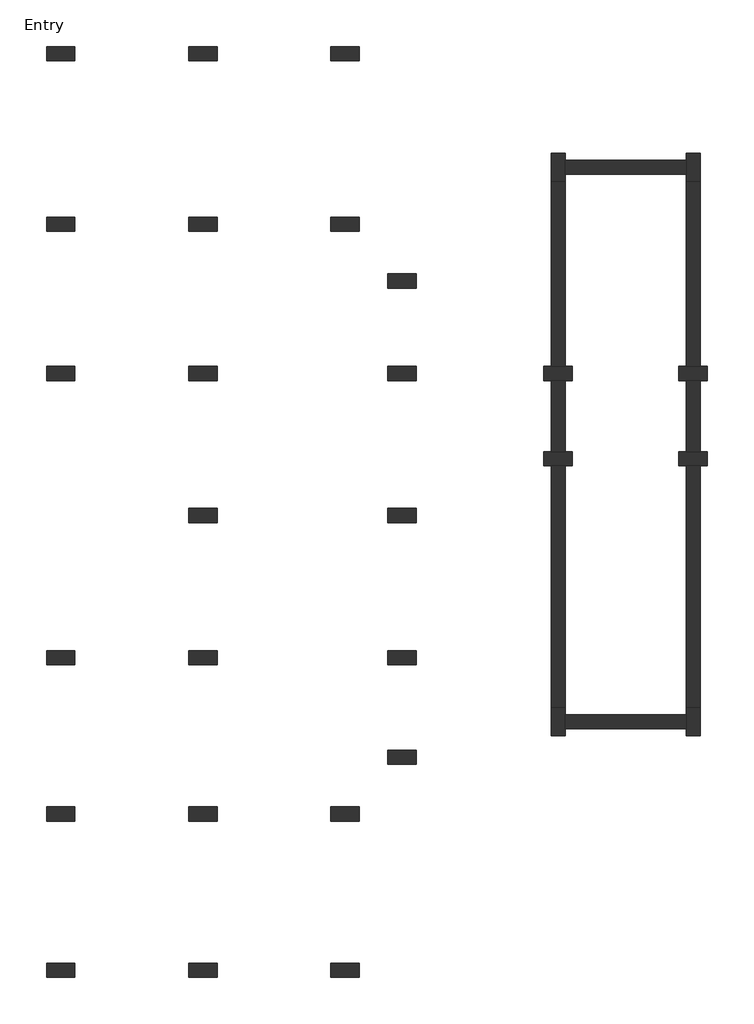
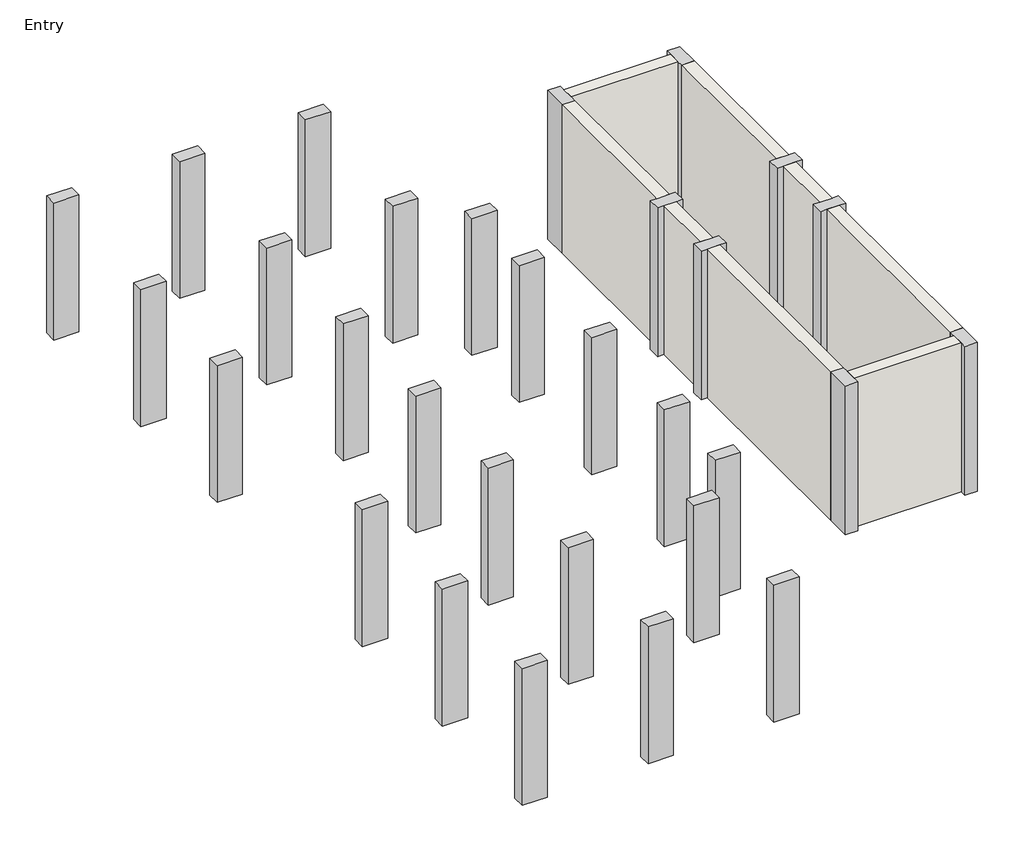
# One storey: 30 columns, 8 walls.
"""IFC4 building model written with IfcOpenShell, lengths in millimetres."""

from ifc_helpers import new_model, si_unit, origin, origin_with_axes, place, context, project, spatial, polyline, outline, extrude, faceted_brep, transform, mapped, element, save
from components import concrete_rectangular_column_12_x_24_9e7f9cbb

model = new_model("IFC4")

# Units and contexts
model_context = context("Model", 3, world=origin())
ifc_project = project(units=[si_unit("LENGTHUNIT", "METRE", prefix="MILLI")], contexts=[model_context])

# Site, building, storey
site = spatial("IfcSite", under=ifc_project)
building = spatial("IfcBuilding", under=site)
storey = spatial("IfcBuildingStorey", under=building, Name="Entry", Elevation=0.0)

# Columns
placement = place(None, origin())
element("IfcColumn", 1, ObjectType="Concrete-Rectangular-Column : 12 x 24", at=placement, inside=storey, context=model_context, shape_type="Brep", body=[
    faceted_brep([(-5009.5554735, 7788.9867088, 0.0), (-4857.1554735, 7788.9867088, 0.0), (-4552.3554735, 7788.9867088, 0.0), (-4399.9554735, 7788.9867088, 0.0), (-4399.9554735, 7484.1867088, 0.0), (-4552.3554735, 7484.1867088, 0.0), (-4857.1554735, 7484.1867088, 0.0), (-5009.5554735, 7484.1867088, 0.0), (-5009.5554735, 7788.9867088, 3810.0), (-4857.1554735, 7788.9867088, 3810.0), (-4552.3554735, 7788.9867088, 3810.0), (-4399.9554735, 7788.9867088, 3810.0), (-4399.9554735, 7484.1867088, 3810.0), (-4552.3554735, 7484.1867088, 3810.0), (-4857.1554735, 7484.1867088, 3810.0), (-5009.5554735, 7484.1867088, 3810.0)], [[[0, 1, 2, 3, 4, 5, 6, 7]], [[8, 9, 10, 11, 3, 2, 1, 0]], [[11, 12, 4, 3]], [[12, 13, 14, 15, 7, 6, 5, 4]], [[15, 8, 0, 7]], [[8, 15, 14, 13, 12, 11, 10, 9]]]),
])
element("IfcColumn", 2, ObjectType="Concrete-Rectangular-Column : 12 x 24", at=placement, inside=storey, context=model_context, shape_type="Brep", body=[
    faceted_brep([(-2113.9554735, 7788.9867088, 0.0), (-1961.5554735, 7788.9867088, 0.0), (-1656.7554735, 7788.9867088, 0.0), (-1504.3554735, 7788.9867088, 0.0), (-1504.3554735, 7484.1867088, 0.0), (-1656.7554735, 7484.1867088, 0.0), (-1961.5554735, 7484.1867088, 0.0), (-2113.9554735, 7484.1867088, 0.0), (-2113.9554735, 7788.9867088, 3810.0), (-1961.5554735, 7788.9867088, 3810.0), (-1656.7554735, 7788.9867088, 3810.0), (-1504.3554735, 7788.9867088, 3810.0), (-1504.3554735, 7484.1867088, 3810.0), (-1656.7554735, 7484.1867088, 3810.0), (-1961.5554735, 7484.1867088, 3810.0), (-2113.9554735, 7484.1867088, 3810.0)], [[[0, 1, 2, 3, 4, 5, 6, 7]], [[8, 9, 10, 11, 3, 2, 1, 0]], [[11, 12, 4, 3]], [[12, 13, 14, 15, 7, 6, 5, 4]], [[15, 8, 0, 7]], [[8, 15, 14, 13, 12, 11, 10, 9]]]),
])
element("IfcColumn", 3, ObjectType="Concrete-Rectangular-Column : 12 x 24", at=placement, inside=storey, context=model_context, shape_type="Brep", body=[
    faceted_brep([(-5009.5554735, 5960.1867088, 0.0), (-4857.1554735, 5960.1867088, 0.0), (-4552.3554735, 5960.1867088, 0.0), (-4399.9554735, 5960.1867088, 0.0), (-4399.9554735, 5655.3867088, 0.0), (-4552.3554735, 5655.3867088, 0.0), (-4857.1554735, 5655.3867088, 0.0), (-5009.5554735, 5655.3867088, 0.0), (-5009.5554735, 5960.1867088, 3810.0), (-4857.1554735, 5960.1867088, 3810.0), (-4552.3554735, 5960.1867088, 3810.0), (-4399.9554735, 5960.1867088, 3810.0), (-4399.9554735, 5655.3867088, 3810.0), (-4552.3554735, 5655.3867088, 3810.0), (-4857.1554735, 5655.3867088, 3810.0), (-5009.5554735, 5655.3867088, 3810.0)], [[[0, 1, 2, 3, 4, 5, 6, 7]], [[8, 9, 10, 11, 3, 2, 1, 0]], [[11, 12, 4, 3]], [[12, 13, 14, 15, 7, 6, 5, 4]], [[15, 8, 0, 7]], [[8, 15, 14, 13, 12, 11, 10, 9]]]),
])
element("IfcColumn", 4, ObjectType="Concrete-Rectangular-Column : 12 x 24", at=placement, inside=storey, context=model_context, shape_type="Brep", body=[
    faceted_brep([(-2113.9554735, 5960.1867088, 0.0), (-1961.5554735, 5960.1867088, 0.0), (-1656.7554735, 5960.1867088, 0.0), (-1504.3554735, 5960.1867088, 0.0), (-1504.3554735, 5655.3867088, 0.0), (-1656.7554735, 5655.3867088, 0.0), (-1961.5554735, 5655.3867088, 0.0), (-2113.9554735, 5655.3867088, 0.0), (-2113.9554735, 5960.1867088, 3810.0), (-1961.5554735, 5960.1867088, 3810.0), (-1656.7554735, 5960.1867088, 3810.0), (-1504.3554735, 5960.1867088, 3810.0), (-1504.3554735, 5655.3867088, 3810.0), (-1656.7554735, 5655.3867088, 3810.0), (-1961.5554735, 5655.3867088, 3810.0), (-2113.9554735, 5655.3867088, 3810.0)], [[[0, 1, 2, 3, 4, 5, 6, 7]], [[8, 9, 10, 11, 3, 2, 1, 0]], [[11, 12, 4, 3]], [[12, 13, 14, 15, 7, 6, 5, 4]], [[15, 8, 0, 7]], [[8, 15, 14, 13, 12, 11, 10, 9]]]),
])
element("IfcColumn", 5, ObjectType="Concrete-Rectangular-Column : 12 x 24", at=placement, inside=storey, context=model_context, shape_type="Brep", body=[
    faceted_brep([(-4857.1554735, 11751.3867088, 0.0), (-4857.1554735, 12360.9867088, 0.0), (-4552.3554735, 12360.9867088, 0.0), (-4552.3554735, 12208.5867088, 0.0), (-4552.3554735, 11903.7867088, 0.0), (-4552.3554735, 11751.3867088, 0.0), (-4857.1554735, 11751.3867088, 3810.0), (-4857.1554735, 12360.9867088, 3810.0), (-4552.3554735, 12360.9867088, 3810.0), (-4552.3554735, 12208.5867088, 3810.0), (-4552.3554735, 11903.7867088, 3810.0), (-4552.3554735, 11751.3867088, 3810.0)], [[[0, 1, 2, 3, 4, 5]], [[6, 7, 1, 0]], [[7, 8, 2, 1]], [[8, 9, 10, 11, 5, 4, 3, 2]], [[11, 6, 0, 5]], [[6, 11, 10, 9, 8, 7]]]),
])
element("IfcColumn", 6, ObjectType="Concrete-Rectangular-Column : 12 x 24", at=placement, inside=storey, context=model_context, shape_type="Brep", body=[
    faceted_brep([(-1961.5554735, 11751.3867088, 0.0), (-1961.5554735, 11903.7867088, 0.0), (-1961.5554735, 12208.5867088, 0.0), (-1961.5554735, 12360.9867088, 0.0), (-1656.7554735, 12360.9867088, 0.0), (-1656.7554735, 11751.3867088, 0.0), (-1961.5554735, 11751.3867088, 3810.0), (-1961.5554735, 11903.7867088, 3810.0), (-1961.5554735, 12208.5867088, 3810.0), (-1961.5554735, 12360.9867088, 3810.0), (-1656.7554735, 12360.9867088, 3810.0), (-1656.7554735, 11751.3867088, 3810.0)], [[[0, 1, 2, 3, 4, 5]], [[6, 7, 8, 9, 3, 2, 1, 0]], [[9, 10, 4, 3]], [[10, 11, 5, 4]], [[11, 6, 0, 5]], [[6, 11, 10, 9, 8, 7]]]),
])
element("IfcColumn", 7, ObjectType="Concrete-Rectangular-Column : 12 x 24", at=placement, inside=storey, context=model_context, shape_type="Brep", body=[
    faceted_brep([(-4857.1554735, -135.8132912, 0.0), (-4857.1554735, 473.7867088, 0.0), (-4552.3554735, 473.7867088, 0.0), (-4552.3554735, 321.3867088, 0.0), (-4552.3554735, 16.5867088, 0.0), (-4552.3554735, -135.8132912, 0.0), (-4857.1554735, -135.8132912, 3810.0), (-4857.1554735, 473.7867088, 3810.0), (-4552.3554735, 473.7867088, 3810.0), (-4552.3554735, 321.3867088, 3810.0), (-4552.3554735, 16.5867088, 3810.0), (-4552.3554735, -135.8132912, 3810.0)], [[[0, 1, 2, 3, 4, 5]], [[6, 7, 1, 0]], [[7, 8, 2, 1]], [[8, 9, 10, 11, 5, 4, 3, 2]], [[11, 6, 0, 5]], [[6, 11, 10, 9, 8, 7]]]),
])
element("IfcColumn", 8, ObjectType="Concrete-Rectangular-Column : 12 x 24", at=placement, inside=storey, context=model_context, shape_type="Brep", body=[
    faceted_brep([(-1961.5554735, -135.8132912, 0.0), (-1961.5554735, 16.5867088, 0.0), (-1961.5554735, 321.3867088, 0.0), (-1961.5554735, 473.7867088, 0.0), (-1656.7554735, 473.7867088, 0.0), (-1656.7554735, -135.8132912, 0.0), (-1961.5554735, -135.8132912, 3810.0), (-1961.5554735, 16.5867088, 3810.0), (-1961.5554735, 321.3867088, 3810.0), (-1961.5554735, 473.7867088, 3810.0), (-1656.7554735, 473.7867088, 3810.0), (-1656.7554735, -135.8132912, 3810.0)], [[[0, 1, 2, 3, 4, 5]], [[6, 7, 8, 9, 3, 2, 1, 0]], [[9, 10, 4, 3]], [[10, 11, 5, 4]], [[11, 6, 0, 5]], [[6, 11, 10, 9, 8, 7]]]),
])
concrete_rectangular_column_12_x_24_shape = concrete_rectangular_column_12_x_24_9e7f9cbb(model_context)
element("IfcColumn", 9, ObjectType="Concrete-Rectangular-Column : 12 x 24", at=placement, inside=storey, context=model_context, shape_type="MappedRepresentation", body=[
    mapped(concrete_rectangular_column_12_x_24_shape, transform((-15372.7554735, 14494.5867088, 0.0), x_axis=(0.0, 1.0, 0.0), y_axis=(-1.0, 0.0, 0.0), z_axis=(0.0, 0.0, 1.0))),
])
element("IfcColumn", 10, ObjectType="Concrete-Rectangular-Column : 12 x 24", at=placement, inside=storey, context=model_context, shape_type="MappedRepresentation", body=[
    mapped(concrete_rectangular_column_12_x_24_shape, transform((-12324.7554735, 14494.5867088, 0.0), x_axis=(0.0, 1.0, 0.0), y_axis=(-1.0, 0.0, 0.0), z_axis=(0.0, 0.0, 1.0))),
])
element("IfcColumn", 11, ObjectType="Concrete-Rectangular-Column : 12 x 24", at=placement, inside=storey, context=model_context, shape_type="MappedRepresentation", body=[
    mapped(concrete_rectangular_column_12_x_24_shape, transform((-9276.7554735, 14494.5867088, 0.0), x_axis=(0.0, 1.0, 0.0), y_axis=(-1.0, 0.0, 0.0), z_axis=(0.0, 0.0, 1.0))),
])
element("IfcColumn", 12, ObjectType="Concrete-Rectangular-Column : 12 x 24", at=placement, inside=storey, context=model_context, shape_type="MappedRepresentation", body=[
    mapped(concrete_rectangular_column_12_x_24_shape, transform((-15372.7554735, 10836.9867088, 0.0), x_axis=(0.0, 1.0000000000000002, 0.0), y_axis=(-1.0000000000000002, 0.0, 0.0), z_axis=(0.0, 0.0, 1.0))),
])
element("IfcColumn", 13, ObjectType="Concrete-Rectangular-Column : 12 x 24", at=placement, inside=storey, context=model_context, shape_type="MappedRepresentation", body=[
    mapped(concrete_rectangular_column_12_x_24_shape, transform((-12324.7554735, 10836.9867088, 0.0), x_axis=(0.0, 1.0, 0.0), y_axis=(-1.0, 0.0, 0.0), z_axis=(0.0, 0.0, 1.0))),
])
element("IfcColumn", 14, ObjectType="Concrete-Rectangular-Column : 12 x 24", at=placement, inside=storey, context=model_context, shape_type="MappedRepresentation", body=[
    mapped(concrete_rectangular_column_12_x_24_shape, transform((-9276.7554735, 10836.9867088, 0.0), x_axis=(0.0, 1.0, 0.0), y_axis=(-1.0, 0.0, 0.0), z_axis=(0.0, 0.0, 1.0))),
])
element("IfcColumn", 15, ObjectType="Concrete-Rectangular-Column : 12 x 24", at=placement, inside=storey, context=model_context, shape_type="MappedRepresentation", body=[
    mapped(concrete_rectangular_column_12_x_24_shape, transform((-8057.5554735, 9617.7867088, 0.0), x_axis=(0.0, 1.0, 0.0), y_axis=(-1.0, 0.0, 0.0), z_axis=(0.0, 0.0, 1.0))),
])
element("IfcColumn", 16, ObjectType="Concrete-Rectangular-Column : 12 x 24", at=placement, inside=storey, context=model_context, shape_type="MappedRepresentation", body=[
    mapped(concrete_rectangular_column_12_x_24_shape, transform((-15372.7554735, 7636.5867088, 0.0), x_axis=(0.0, 1.0, 0.0), y_axis=(-1.0, 0.0, 0.0), z_axis=(0.0, 0.0, 1.0))),
])
element("IfcColumn", 17, ObjectType="Concrete-Rectangular-Column : 12 x 24", at=placement, inside=storey, context=model_context, shape_type="MappedRepresentation", body=[
    mapped(concrete_rectangular_column_12_x_24_shape, transform((-12324.7554735, 7636.5867088, 0.0), x_axis=(0.0, 1.0, 0.0), y_axis=(-1.0, 0.0, 0.0), z_axis=(0.0, 0.0, 1.0))),
])
element("IfcColumn", 18, ObjectType="Concrete-Rectangular-Column : 12 x 24", at=placement, inside=storey, context=model_context, shape_type="MappedRepresentation", body=[
    mapped(concrete_rectangular_column_12_x_24_shape, transform((-8057.5554735, 7636.5867088, 0.0), x_axis=(0.0, 1.0, 0.0), y_axis=(-1.0, 0.0, 0.0), z_axis=(0.0, 0.0, 1.0))),
])
element("IfcColumn", 19, ObjectType="Concrete-Rectangular-Column : 12 x 24", at=placement, inside=storey, context=model_context, shape_type="MappedRepresentation", body=[
    mapped(concrete_rectangular_column_12_x_24_shape, transform((-12324.7554735, 4588.5867088, 0.0), x_axis=(0.0, 1.0000000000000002, 0.0), y_axis=(-1.0000000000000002, 0.0, 0.0), z_axis=(0.0, 0.0, 1.0))),
])
element("IfcColumn", 20, ObjectType="Concrete-Rectangular-Column : 12 x 24", at=placement, inside=storey, context=model_context, shape_type="MappedRepresentation", body=[
    mapped(concrete_rectangular_column_12_x_24_shape, transform((-8057.5554735, 4588.5867088, 0.0), x_axis=(0.0, 1.0000000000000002, 0.0), y_axis=(-1.0000000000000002, 0.0, 0.0), z_axis=(0.0, 0.0, 1.0))),
])
element("IfcColumn", 21, ObjectType="Concrete-Rectangular-Column : 12 x 24", at=placement, inside=storey, context=model_context, shape_type="MappedRepresentation", body=[
    mapped(concrete_rectangular_column_12_x_24_shape, transform((-15372.7554735, 1540.5867088, 0.0), x_axis=(0.0, 1.0000000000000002, 0.0), y_axis=(-1.0000000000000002, 0.0, 0.0), z_axis=(0.0, 0.0, 1.0))),
])
element("IfcColumn", 22, ObjectType="Concrete-Rectangular-Column : 12 x 24", at=placement, inside=storey, context=model_context, shape_type="MappedRepresentation", body=[
    mapped(concrete_rectangular_column_12_x_24_shape, transform((-12324.7554735, 1540.5867088, 0.0), x_axis=(0.0, 1.0000000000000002, 0.0), y_axis=(-1.0000000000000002, 0.0, 0.0), z_axis=(0.0, 0.0, 1.0))),
])
element("IfcColumn", 23, ObjectType="Concrete-Rectangular-Column : 12 x 24", at=placement, inside=storey, context=model_context, shape_type="MappedRepresentation", body=[
    mapped(concrete_rectangular_column_12_x_24_shape, transform((-8057.5554735, 1540.5867088, 0.0), x_axis=(0.0, 1.0, 0.0), y_axis=(-1.0, 0.0, 0.0), z_axis=(0.0, 0.0, 1.0))),
])
element("IfcColumn", 24, ObjectType="Concrete-Rectangular-Column : 12 x 24", at=placement, inside=storey, context=model_context, shape_type="MappedRepresentation", body=[
    mapped(concrete_rectangular_column_12_x_24_shape, transform((-8057.5554735, -593.0132912, 0.0), x_axis=(0.0, 1.0000000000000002, 0.0), y_axis=(-1.0000000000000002, 0.0, 0.0), z_axis=(0.0, 0.0, 1.0))),
])
element("IfcColumn", 25, ObjectType="Concrete-Rectangular-Column : 12 x 24", at=placement, inside=storey, context=model_context, shape_type="MappedRepresentation", body=[
    mapped(concrete_rectangular_column_12_x_24_shape, transform((-15372.7554735, -1812.2132912, 0.0), x_axis=(0.0, 1.0000000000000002, 0.0), y_axis=(-1.0000000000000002, 0.0, 0.0), z_axis=(0.0, 0.0, 1.0))),
])
element("IfcColumn", 26, ObjectType="Concrete-Rectangular-Column : 12 x 24", at=placement, inside=storey, context=model_context, shape_type="MappedRepresentation", body=[
    mapped(concrete_rectangular_column_12_x_24_shape, transform((-12324.7554735, -1812.2132912, 0.0), x_axis=(0.0, 1.0, 0.0), y_axis=(-1.0, 0.0, 0.0), z_axis=(0.0, 0.0, 1.0))),
])
element("IfcColumn", 27, ObjectType="Concrete-Rectangular-Column : 12 x 24", at=placement, inside=storey, context=model_context, shape_type="MappedRepresentation", body=[
    mapped(concrete_rectangular_column_12_x_24_shape, transform((-9276.7554735, -1812.2132912, 0.0), x_axis=(0.0, 1.0, 0.0), y_axis=(-1.0, 0.0, 0.0), z_axis=(0.0, 0.0, 1.0))),
])
element("IfcColumn", 28, ObjectType="Concrete-Rectangular-Column : 12 x 24", at=placement, inside=storey, context=model_context, shape_type="MappedRepresentation", body=[
    mapped(concrete_rectangular_column_12_x_24_shape, transform((-15372.7554735, -5165.0132912, 0.0), x_axis=(0.0, 1.0000000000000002, 0.0), y_axis=(-1.0000000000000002, 0.0, 0.0), z_axis=(0.0, 0.0, 1.0))),
])
element("IfcColumn", 29, ObjectType="Concrete-Rectangular-Column : 12 x 24", at=placement, inside=storey, context=model_context, shape_type="MappedRepresentation", body=[
    mapped(concrete_rectangular_column_12_x_24_shape, transform((-12324.7554735, -5165.0132912, 0.0), x_axis=(0.0, 1.0000000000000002, 0.0), y_axis=(-1.0000000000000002, 0.0, 0.0), z_axis=(0.0, 0.0, 1.0))),
])
element("IfcColumn", 30, ObjectType="Concrete-Rectangular-Column : 12 x 24", at=placement, inside=storey, context=model_context, shape_type="MappedRepresentation", body=[
    mapped(concrete_rectangular_column_12_x_24_shape, transform((-9276.7554735, -5165.0132912, 0.0), x_axis=(0.0, 1.0, 0.0), y_axis=(-1.0, 0.0, 0.0), z_axis=(0.0, 0.0, 1.0))),
])

# Walls
element("IfcWall", 31, ObjectType="Core Shaft - 12\" Concrete", at=placement, inside=storey, context=model_context, shape_type="SweptSolid", body=[
    extrude(outline(polyline([(-1961.5554735, 11903.7867088), (-4552.3554735, 11903.7867088), (-4552.3554735, 12208.5867088), (-1961.5554735, 12208.5867088), (-1961.5554735, 11903.7867088)])), origin_with_axes(), (0.0, 0.0, 1.0), 3810.0),
])
element("IfcWall", 32, ObjectType="Core Shaft - 12\" Concrete", at=placement, inside=storey, context=model_context, shape_type="SweptSolid", body=[
    extrude(outline(polyline([(-1961.5554735, 7788.9867088), (-1961.5554735, 11751.3867088), (-1656.7554735, 11751.3867088), (-1656.7554735, 7788.9867088), (-1961.5554735, 7788.9867088)])), origin_with_axes(), (0.0, 0.0, 1.0), 3810.0),
])
element("IfcWall", 33, ObjectType="Core Shaft - 12\" Concrete", at=placement, inside=storey, context=model_context, shape_type="SweptSolid", body=[
    extrude(outline(polyline([(-1961.5554735, 5960.1867088), (-1961.5554735, 7484.1867088), (-1656.7554735, 7484.1867088), (-1656.7554735, 5960.1867088), (-1961.5554735, 5960.1867088)])), origin_with_axes(), (0.0, 0.0, 1.0), 3810.0),
])
element("IfcWall", 34, ObjectType="Core Shaft - 12\" Concrete", at=placement, inside=storey, context=model_context, shape_type="SweptSolid", body=[
    extrude(outline(polyline([(-1961.5554735, 473.7867088), (-1961.5554735, 5655.3867088), (-1656.7554735, 5655.3867088), (-1656.7554735, 473.7867088), (-1961.5554735, 473.7867088)])), origin_with_axes(), (0.0, 0.0, 1.0), 3810.0),
])
element("IfcWall", 35, ObjectType="Core Shaft - 12\" Concrete", at=placement, inside=storey, context=model_context, shape_type="SweptSolid", body=[
    extrude(outline(polyline([(-4552.3554735, 321.3867088), (-1961.5554735, 321.3867088), (-1961.5554735, 16.5867088), (-4552.3554735, 16.5867088), (-4552.3554735, 321.3867088)])), origin_with_axes(), (0.0, 0.0, 1.0), 3810.0),
])
element("IfcWall", 36, ObjectType="Core Shaft - 12\" Concrete", at=placement, inside=storey, context=model_context, shape_type="SweptSolid", body=[
    extrude(outline(polyline([(-4552.3554735, 5655.3867088), (-4552.3554735, 473.7867088), (-4857.1554735, 473.7867088), (-4857.1554735, 5655.3867088), (-4552.3554735, 5655.3867088)])), origin_with_axes(), (0.0, 0.0, 1.0), 3810.0),
])
element("IfcWall", 37, ObjectType="Core Shaft - 12\" Concrete", at=placement, inside=storey, context=model_context, shape_type="SweptSolid", body=[
    extrude(outline(polyline([(-4552.3554735, 7484.1867088), (-4552.3554735, 5960.1867088), (-4857.1554735, 5960.1867088), (-4857.1554735, 7484.1867088), (-4552.3554735, 7484.1867088)])), origin_with_axes(), (0.0, 0.0, 1.0), 3810.0),
])
element("IfcWall", 38, ObjectType="Core Shaft - 12\" Concrete", at=placement, inside=storey, context=model_context, shape_type="SweptSolid", body=[
    extrude(outline(polyline([(-4552.3554735, 11751.3867088), (-4552.3554735, 7788.9867088), (-4857.1554735, 7788.9867088), (-4857.1554735, 11751.3867088), (-4552.3554735, 11751.3867088)])), origin_with_axes(), (0.0, 0.0, 1.0), 3810.0),
])

save(model, "model.ifc")
